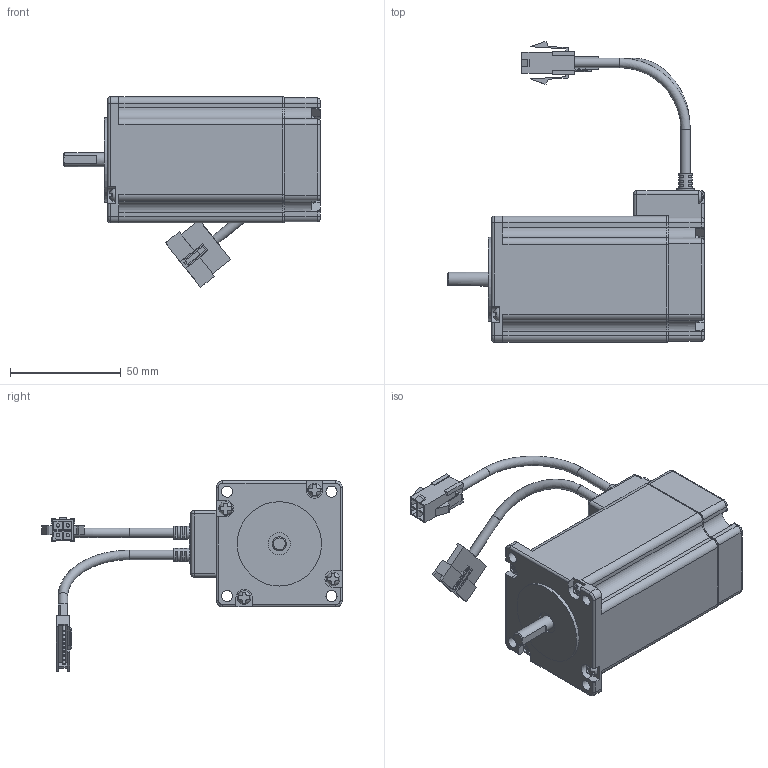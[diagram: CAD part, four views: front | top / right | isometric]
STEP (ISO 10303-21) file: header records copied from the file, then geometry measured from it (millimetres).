
FILE_DESCRIPTION(/* description */ (''),/* implementation_level */ '2;1');
FILE_NAME(/* name */ '\\EMN0D5F01\rp_inventor\RP Mechanical Design\Wiley\Updated Models\eCLM-P233A.stp',/* time_stamp */ '2016-10-27T15:19:20-07:00',/* author */ ('JDB'),/* organization */ ('Parker Hannifin Corp'),/* preprocessor_version */ 'ST-DEVELOPER v15.2',/* originating_system */ 'Autodesk Inventor 2014',/* authorisation */ '');
FILE_SCHEMA (('CONFIG_CONTROL_DESIGN'));
Length unit declared in the file: inch
Products named in the file (1): eCLM-P233A_sw
Bounding box: 116 x 135.91 x 86.05 mm (x, y, z)
Volume: 254386.6 mm3; surface area: 49254 mm2
Topology: 3 solids, 3 shells, 774 faces, 2006 edges, 1294 vertices
Faces by surface type: plane 506, cylinder 170, cone 42, torus 30, bspline 14, sphere 12
Full cylindrical faces by diameter (mm): 1 x9, 1.5 x4, 1.6 x4, 2.4 x3, 3 x4, 3.4 x4, 4.3 x4, 5 x4, 6 x4, 6.35 x2, 8 x1, 10 x1, 38.1 x1
Entity records: 23426 total; most frequent: CARTESIAN_POINT 4652, DIRECTION 3959, ORIENTED_EDGE 3788, EDGE_CURVE 1892, AXIS2_PLACEMENT_3D 1391, VERTEX_POINT 1259, LINE 1177, VECTOR 1177
